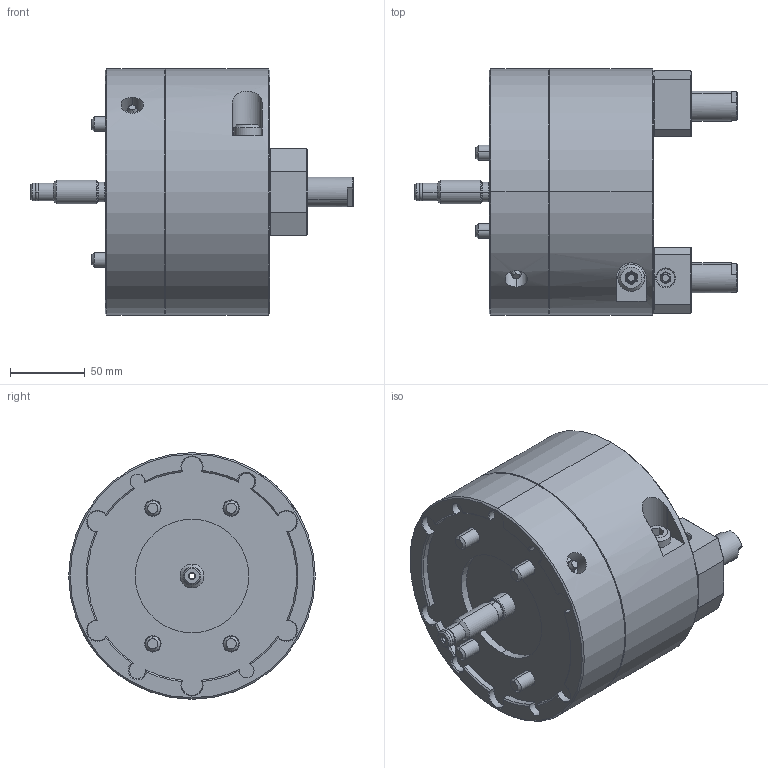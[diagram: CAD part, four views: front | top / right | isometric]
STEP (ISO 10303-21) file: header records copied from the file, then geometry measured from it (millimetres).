
FILE_DESCRIPTION (( 'STEP AP214' ), '1' );
FILE_NAME ('FGT06_UC.STEP', '2019-12-02T04:11:01', ( '' ), ( '' ), 'SwSTEP 2.0', 'SolidWorks 2017', '' );
FILE_SCHEMA (( 'AUTOMOTIVE_DESIGN' ));
Length unit declared in the file: millimetre
Products named in the file (2): 結合; FGT06_UC
Assembly tree (1 placements, depth 2):
  FGT06_UC
    結合
Bounding box: 216 x 165 x 165 mm (x, y, z)
Volume: 2353580.8 mm3; surface area: 161106.3 mm2
Topology: 3 solids, 19 shells, 1258 faces, 3007 edges, 1825 vertices
Faces by surface type: plane 556, cone 297, cylinder 251, bspline 94, torus 60
Entity records: 42507 total; most frequent: CARTESIAN_POINT 13513, ORIENTED_EDGE 5926, DIRECTION 5914, EDGE_CURVE 2963, AXIS2_PLACEMENT_3D 2205, VERTEX_POINT 1825, VECTOR 1504, LINE 1504
